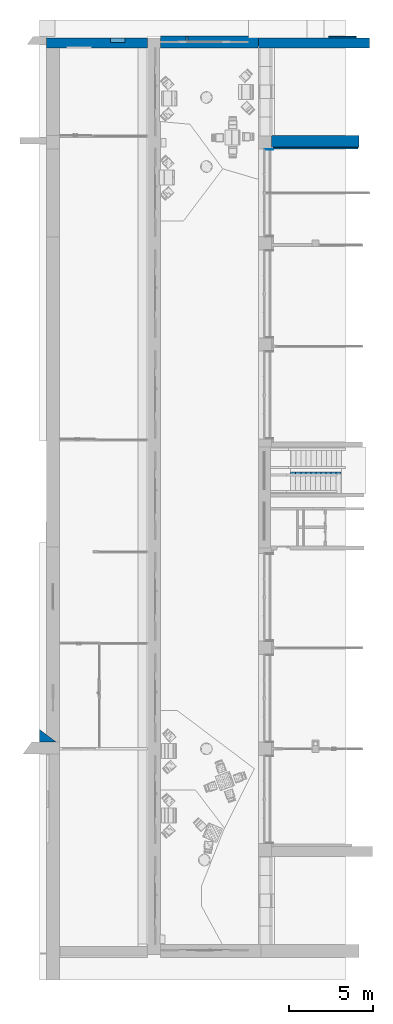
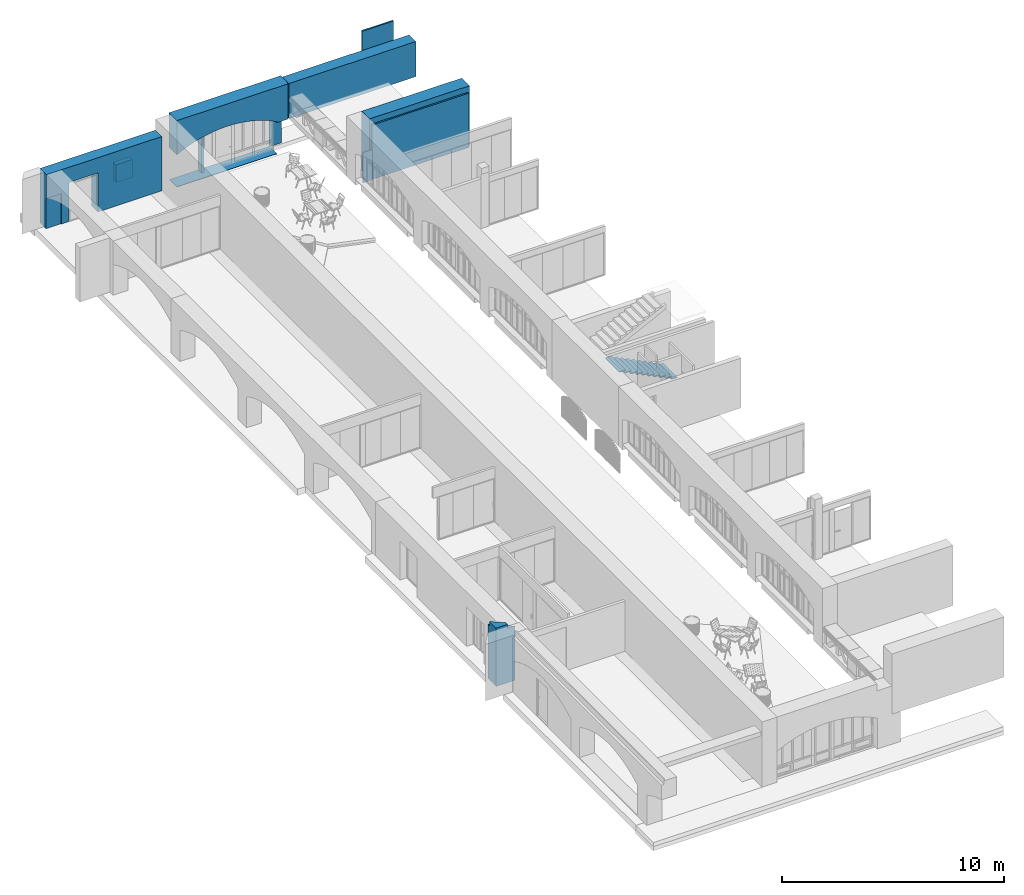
# One storey, part 75 of 88: 10 walls, 1 stair flight, 14 openings, 1 element without a shape of its own.
"""IFC2X3 building model written with IfcOpenShell, lengths in millimetres."""

import ifcopenshell
import ifcopenshell.guid

model = None  # the IFC model being written
_history = None  # IfcOwnerHistory: only IFC2X3 demands one
_inside = {}  # id of a spatial element -> (the spatial element, [elements in it])
_under = {}  # id of a project, library or spatial element -> (it, [spatial elements below it])
_declared = {}  # id of a project -> (the project, [libraries it declares])
_typed = {}  # id of a type object -> (the type object, [elements of that type])
_made_of = {}  # id of a material, layer set ... -> (it, [elements and type objects made of it])


def new_model(schema):
    """Start an empty IFC model of exactly this schema.

    Asked for "IFC4X3", IfcOpenShell would pick the latest addendum, in which some entities
    have other attributes; the version numbers below select the first issue.
    IFC2X3 requires an IfcOwnerHistory on every rooted entity: one is made here for all.
    """
    global model, _history
    if schema == "IFC4X3":
        model = ifcopenshell.file(schema_version=(4, 3, 0, 0))
    else:
        model = ifcopenshell.file(schema=schema)
    _inside.clear()
    _under.clear()
    _declared.clear()
    _typed.clear()
    _made_of.clear()
    _history = None
    if model.schema == "IFC2X3":
        org = make("IfcOrganization", Name="unknown")
        user = make(
            "IfcPersonAndOrganization",
            ThePerson=make("IfcPerson", FamilyName="unknown"),
            TheOrganization=org,
        )
        app = make(
            "IfcApplication",
            ApplicationDeveloper=org,
            Version="unknown",
            ApplicationFullName="unknown",
            ApplicationIdentifier="unknown",
        )
        _history = make(
            "IfcOwnerHistory",
            OwningUser=user,
            OwningApplication=app,
            ChangeAction="ADDED",
            CreationDate=0,
        )
    return model


def make(cls, **values):
    """One entity of the class cls with the attributes given. An attribute that is None is left unset."""
    return model.create_entity(
        cls, **{name: value for name, value in values.items() if value is not None}
    )


def entity(cls, *values):
    """Any entity or typed value of the class cls, its attributes in the order of the schema. None: left unset."""
    e = model.create_entity(cls)
    for i, value in enumerate(values):
        if value is not None:
            e[i] = value
    return e


def rooted(cls, **values):
    """An entity with a GlobalId (a new one), such as an element, a storey or a relation."""
    return make(cls, GlobalId=ifcopenshell.guid.new(), OwnerHistory=_history, **values)


def si_unit(unit_type, name, prefix=None):
    """IfcSIUnit, for example si_unit("LENGTHUNIT", "METRE", prefix="MILLI")."""
    return make("IfcSIUnit", UnitType=unit_type, Prefix=prefix, Name=name)


def converted_unit(unit_type, name, factor, base, dimensions=None, offset=None):
    """IfcConversionBasedUnit, such as the inch: factor (a typed value) times the base unit."""
    return make(
        "IfcConversionBasedUnit"
        if offset is None
        else "IfcConversionBasedUnitWithOffset",
        ConversionOffset=offset,
        Dimensions=None
        if dimensions is None
        else entity("IfcDimensionalExponents", *dimensions),
        UnitType=unit_type,
        Name=name,
        ConversionFactor=make(
            "IfcMeasureWithUnit", ValueComponent=factor, UnitComponent=base
        ),
    )


def derived_unit(unit_type, elements):
    """IfcDerivedUnit: a product of units, each with its exponent."""
    return make(
        "IfcDerivedUnit",
        Elements=[
            make("IfcDerivedUnitElement", Unit=unit, Exponent=power)
            for unit, power in elements
        ],
        UnitType=unit_type,
    )


def assignment(units):
    """IfcUnitAssignment: the units of a project."""
    return None if units is None else make("IfcUnitAssignment", Units=units)


def point(xyz):
    """IfcCartesianPoint."""
    return None if xyz is None else make("IfcCartesianPoint", Coordinates=xyz)


def direction(xyz):
    """IfcDirection."""
    return None if xyz is None else make("IfcDirection", DirectionRatios=xyz)


def frame(location, z_axis=None, x_axis=None):
    """IfcAxis2Placement3D, a coordinate frame: its origin and axes. An axis left out is left unset."""
    return make(
        "IfcAxis2Placement3D",
        Location=point(location),
        Axis=direction(z_axis),
        RefDirection=direction(x_axis),
    )


def frame_2d(location, x_axis=None):
    """IfcAxis2Placement2D, a coordinate frame in the plane: its origin and x axis."""
    return make(
        "IfcAxis2Placement2D", Location=point(location), RefDirection=direction(x_axis)
    )


def origin():
    """The frame at (0, 0, 0) with its axes left unset."""
    return frame((0.0, 0.0, 0.0))


def origin_2d_with_axis():
    """The frame at (0, 0) in the plane with the x axis (1, 0) written out."""
    return frame_2d((0.0, 0.0), x_axis=(1.0, 0.0))


def place(relative_to, where):
    """IfcLocalPlacement: puts the frame where relative to a parent placement (None: the world)."""
    return make(
        "IfcLocalPlacement", PlacementRelTo=relative_to, RelativePlacement=where
    )


def context(
    kind, dimensions, precision=None, world=None, true_north=None, identifier=None
):
    """IfcGeometricRepresentationContext, for example the 3D "Model" context."""
    return make(
        "IfcGeometricRepresentationContext",
        ContextIdentifier=identifier,
        ContextType=kind,
        CoordinateSpaceDimension=dimensions,
        Precision=precision,
        WorldCoordinateSystem=world,
        TrueNorth=true_north,
    )


def subcontext(parent, identifier, kind, view, scale=None):
    """IfcGeometricRepresentationSubContext, for example "Body" below "Model"."""
    return make(
        "IfcGeometricRepresentationSubContext",
        ContextIdentifier=identifier,
        ContextType=kind,
        ParentContext=parent,
        TargetScale=scale,
        TargetView=view,
    )


def project(units=None, contexts=None):
    """IfcProject with its units and contexts."""
    return rooted(
        "IfcProject",
        Name="project",
        RepresentationContexts=contexts,
        UnitsInContext=assignment(units),
    )


def spatial(cls, under=None, at=None, **own):
    """A site, building, storey or space (cls), placed at a placement, below another one or the project."""
    s = rooted(cls, ObjectPlacement=at, **own)
    if under is not None:
        _under.setdefault(under.id(), (under, []))[1].append(s)
    return s


def polyline(points):
    """IfcPolyline through the points."""
    return make("IfcPolyline", Points=[point(p) for p in points])


def circle_curve(where, radius):
    """IfcCircle in the frame where."""
    return make("IfcCircle", Position=where, Radius=radius)


def parameter(value):
    """IfcParameterValue: where a trimmed curve begins or ends, as a parameter of its basis curve."""
    return model.create_entity("IfcParameterValue", value)


def trimmed(basis, trim1, trim2, sense, master):
    """IfcTrimmedCurve: the piece of a basis curve between two trims."""
    return make(
        "IfcTrimmedCurve",
        BasisCurve=basis,
        Trim1=trim1,
        Trim2=trim2,
        SenseAgreement=sense,
        MasterRepresentation=master,
    )


def segment(curve, same_sense, transition):
    """IfcCompositeCurveSegment."""
    return make(
        "IfcCompositeCurveSegment",
        Transition=transition,
        SameSense=same_sense,
        ParentCurve=curve,
    )


def composite_curve(segments, self_intersect=None):
    """IfcCompositeCurve: segments joined end to end."""
    return make("IfcCompositeCurve", Segments=segments, SelfIntersect=self_intersect)


def profile(cls, at=None, kind="AREA", **sizes):
    """A parametric profile (cls). Its sizes go by their IFC names, for example OverallWidth=200.0."""
    return make(cls, ProfileType=kind, Position=at, **sizes)


def rectangle(**sizes):
    """IfcRectangleProfileDef."""
    return profile("IfcRectangleProfileDef", **sizes)


def outline(outer, holes=None, kind="AREA"):
    """IfcArbitraryClosedProfileDef: a profile drawn as a closed curve; with holes, ...WithVoids."""
    if holes is None:
        return make("IfcArbitraryClosedProfileDef", ProfileType=kind, OuterCurve=outer)
    return make(
        "IfcArbitraryProfileDefWithVoids",
        ProfileType=kind,
        OuterCurve=outer,
        InnerCurves=holes,
    )


def extrude(swept, where, along, depth):
    """IfcExtrudedAreaSolid: the profile swept, set in the frame where, extruded along a direction by depth."""
    return make(
        "IfcExtrudedAreaSolid",
        SweptArea=swept,
        Position=where,
        ExtrudedDirection=direction(along),
        Depth=depth,
    )


def clip(a, b, op="DIFFERENCE"):
    """IfcBooleanClippingResult: the solid a cut by the half space b."""
    return make(
        "IfcBooleanClippingResult", Operator=op, FirstOperand=a, SecondOperand=b
    )


def bounded_halfspace(plane, agree, where, boundary):
    """IfcPolygonalBoundedHalfSpace: a half space limited to a polygon's prism."""
    return make(
        "IfcPolygonalBoundedHalfSpace",
        BaseSurface=make("IfcPlane", Position=plane),
        AgreementFlag=agree,
        Position=where,
        PolygonalBoundary=boundary,
    )


def faces_of(points, faces, orient=None, outer=None):
    """IfcFace entities. A face is a list of loops; a loop is a list of indices into points, from 0.

    orient and outer hold one flag for each loop. By default every Orientation is true, the
    first loop of a face is its IfcFaceOuterBound and the others are IfcFaceBound.
    """
    made = []
    for i, loops in enumerate(faces):
        bounds = []
        for j, loop in enumerate(loops):
            is_outer = j == 0 if outer is None else outer[i][j]
            bounds.append(
                make(
                    "IfcFaceOuterBound" if is_outer else "IfcFaceBound",
                    Bound=make("IfcPolyLoop", Polygon=[points[k] for k in loop]),
                    Orientation=True if orient is None else orient[i][j],
                )
            )
        made.append(make("IfcFace", Bounds=bounds))
    return made


def faceted_brep(points, faces, orient=None, outer=None, voids=None):
    """IfcFacetedBrep: a solid bounded by flat faces; with voids (closed shells), ...WithVoids."""
    shared = [point(p) for p in points]
    hull = make("IfcClosedShell", CfsFaces=faces_of(shared, faces, orient, outer))
    if voids is None:
        return make("IfcFacetedBrep", Outer=hull)
    return make(
        "IfcFacetedBrepWithVoids",
        Outer=hull,
        Voids=[
            make(cls, CfsFaces=faces_of(shared, fs, o, b)) for cls, fs, o, b in voids
        ],
    )


def shape(context_of_items, identifier, shape_type, items):
    """IfcShapeRepresentation: the items that make up one representation, for example the "Body"."""
    return make(
        "IfcShapeRepresentation",
        ContextOfItems=context_of_items,
        RepresentationIdentifier=identifier,
        RepresentationType=shape_type,
        Items=items,
    )


def material(Name=None, Category=None):
    """IfcMaterial."""
    return make("IfcMaterial", Name=Name, Category=Category)


def layer(
    of_material, thickness, ventilated=None, Name=None, Category=None, Priority=None
):
    """IfcMaterialLayer: one layer of a wall or slab, of a material (None: an air gap)."""
    return make(
        "IfcMaterialLayer",
        Material=of_material,
        LayerThickness=thickness,
        IsVentilated=ventilated,
        Name=Name,
        Category=Category,
        Priority=Priority,
    )


def layer_set(layers, Name=None):
    """IfcMaterialLayerSet."""
    return make("IfcMaterialLayerSet", MaterialLayers=layers, LayerSetName=Name)


def layer_usage(for_layer_set, set_direction, sense, offset, extent=None):
    """IfcMaterialLayerSetUsage: how a layer set lies in its element."""
    return make(
        "IfcMaterialLayerSetUsage",
        ForLayerSet=for_layer_set,
        LayerSetDirection=set_direction,
        DirectionSense=sense,
        OffsetFromReferenceLine=offset,
        ReferenceExtent=extent,
    )


def made_of(thing, what):
    """Note that an element or type object is made of a material, layer set ...; save() writes the relation."""
    if what is not None:
        _made_of.setdefault(what.id(), (what, []))[1].append(thing)
    return thing


def type_object(cls, material=None, **own):
    """A type object (cls), such as IfcWallType, which elements share."""
    return made_of(rooted(cls, **own), material)


def element(
    cls,
    number,
    at=None,
    inside=None,
    cuts=None,
    type_object=None,
    material=None,
    context=None,
    identifier="Body",
    shape_type=None,
    held_by="IfcProductDefinitionShape",
    body=None,
    shapes=None,
    **own,
):
    """One element of the class cls, such as IfcWall. Its Tag is "e" and its number.

    at: its placement. inside: the storey or other place that contains it. cuts: it is an
    opening in that element (IfcRelVoidsElement). A single representation is given by context,
    identifier, shape_type and body (its items); several are given by shapes. held_by: the class
    of the entity that holds the representations. save() writes the other relations.
    """
    e = rooted(cls, Tag="e%d" % number, ObjectPlacement=at, **own)
    if body is not None:
        shapes = [shape(context, identifier, shape_type, body)]
    if shapes is not None:
        e.Representation = make(held_by, Representations=shapes)
    if inside is not None:
        _inside.setdefault(inside.id(), (inside, []))[1].append(e)
    if cuts is not None:
        rooted(
            "IfcRelVoidsElement", RelatingBuildingElement=cuts, RelatedOpeningElement=e
        )
    if type_object is not None:
        _typed.setdefault(type_object.id(), (type_object, []))[1].append(e)
    return made_of(e, material)


def aggregate(whole, parts):
    """IfcRelAggregates: a whole, such as a stair, and the parts it consists of."""
    return rooted("IfcRelAggregates", RelatingObject=whole, RelatedObjects=parts)


def save(model, path):
    """Write the relations noted so far, then the file.

    IfcRelAggregates (storeys below a building ...), IfcRelContainedInSpatialStructure (elements
    in a storey), IfcRelDefinesByType, IfcRelAssociatesMaterial and IfcRelDeclares: one each for
    every whole, place, type object, material and project.
    """
    for whole, parts in _under.values():
        aggregate(whole, parts)
    for where, things in _inside.values():
        rooted(
            "IfcRelContainedInSpatialStructure",
            RelatedElements=things,
            RelatingStructure=where,
        )
    for kind, things in _typed.values():
        rooted("IfcRelDefinesByType", RelatedObjects=things, RelatingType=kind)
    for what, things in _made_of.values():
        rooted("IfcRelAssociatesMaterial", RelatedObjects=things, RelatingMaterial=what)
    for by, libraries in _declared.values():
        rooted("IfcRelDeclares", RelatingContext=by, RelatedDefinitions=libraries)
    model.write(path)


model = new_model("IFC2X3")

# Units and contexts
model_context = context("Model", 3, precision=0.01, world=origin(), true_north=direction((6.123031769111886e-17, 1.0)))
body_context = subcontext(model_context, "Body", "Model", "MODEL_VIEW")
ifc_project = project(units=[si_unit("LENGTHUNIT", "METRE", prefix="MILLI"), si_unit("AREAUNIT", "SQUARE_METRE"), si_unit("VOLUMEUNIT", "CUBIC_METRE"), converted_unit("PLANEANGLEUNIT", "DEGREE", entity("IfcPlaneAngleMeasure", 0.017453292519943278), si_unit("PLANEANGLEUNIT", "RADIAN"), dimensions=[0, 0, 0, 0, 0, 0, 0]), si_unit("MASSUNIT", "GRAM", prefix="KILO"), derived_unit("MASSDENSITYUNIT", [(si_unit("MASSUNIT", "GRAM", prefix="KILO"), 1), (si_unit("LENGTHUNIT", "METRE"), -3)]), derived_unit("IONCONCENTRATIONUNIT", [(si_unit("MASSUNIT", "GRAM", prefix="KILO"), 1), (si_unit("LENGTHUNIT", "METRE"), -3)]), derived_unit("MOMENTOFINERTIAUNIT", [(si_unit("LENGTHUNIT", "METRE"), 4)]), si_unit("TIMEUNIT", "SECOND"), si_unit("FREQUENCYUNIT", "HERTZ"), si_unit("THERMODYNAMICTEMPERATUREUNIT", "DEGREE_CELSIUS"), derived_unit("THERMALTRANSMITTANCEUNIT", [(si_unit("MASSUNIT", "GRAM", prefix="KILO"), 1), (si_unit("THERMODYNAMICTEMPERATUREUNIT", "KELVIN"), -1), (si_unit("TIMEUNIT", "SECOND"), -3)]), derived_unit("THERMALCONDUCTANCEUNIT", [(si_unit("MASSUNIT", "GRAM", prefix="KILO"), 1), (si_unit("THERMODYNAMICTEMPERATUREUNIT", "KELVIN"), -1), (si_unit("TIMEUNIT", "SECOND"), -3), (si_unit("LENGTHUNIT", "METRE"), 1)]), derived_unit("VOLUMETRICFLOWRATEUNIT", [(si_unit("LENGTHUNIT", "METRE", prefix="DECI"), 3), (si_unit("TIMEUNIT", "SECOND"), -1)]), derived_unit("MASSFLOWRATEUNIT", [(si_unit("MASSUNIT", "GRAM", prefix="KILO"), 1), (si_unit("TIMEUNIT", "SECOND"), -1)]), derived_unit("ROTATIONALFREQUENCYUNIT", [(si_unit("TIMEUNIT", "SECOND"), -1)]), si_unit("ELECTRICCURRENTUNIT", "AMPERE"), si_unit("ELECTRICVOLTAGEUNIT", "VOLT"), si_unit("POWERUNIT", "WATT"), si_unit("FORCEUNIT", "NEWTON", prefix="KILO"), si_unit("ILLUMINANCEUNIT", "LUX"), si_unit("LUMINOUSFLUXUNIT", "LUMEN"), si_unit("LUMINOUSINTENSITYUNIT", "CANDELA"), si_unit("ENERGYUNIT", "JOULE"), derived_unit("USERDEFINED", [(si_unit("MASSUNIT", "GRAM", prefix="KILO"), -1), (si_unit("LENGTHUNIT", "METRE"), -2), (si_unit("TIMEUNIT", "SECOND"), 3), (si_unit("LUMINOUSFLUXUNIT", "LUMEN"), 1)]), derived_unit("USERDEFINED", [(si_unit("MASSUNIT", "GRAM", prefix="KILO"), 1), (si_unit("TIMEUNIT", "SECOND"), -3), (si_unit("LENGTHUNIT", "METRE"), 3), (si_unit("ELECTRICCURRENTUNIT", "AMPERE"), -2)]), derived_unit("SOUNDPOWERUNIT", [(si_unit("MASSUNIT", "GRAM", prefix="KILO"), 1), (si_unit("TIMEUNIT", "SECOND"), -3), (si_unit("LENGTHUNIT", "METRE"), 2)]), derived_unit("SOUNDPRESSUREUNIT", [(si_unit("MASSUNIT", "GRAM", prefix="KILO"), 1), (si_unit("LENGTHUNIT", "METRE"), -1), (si_unit("TIMEUNIT", "SECOND"), -2)]), derived_unit("LINEARVELOCITYUNIT", [(si_unit("LENGTHUNIT", "METRE"), 1), (si_unit("TIMEUNIT", "SECOND"), -1)]), si_unit("PRESSUREUNIT", "PASCAL"), derived_unit("USERDEFINED", [(si_unit("MASSUNIT", "GRAM", prefix="KILO"), 1), (si_unit("LENGTHUNIT", "METRE"), -2), (si_unit("TIMEUNIT", "SECOND"), -2)]), derived_unit("LINEARFORCEUNIT", [(si_unit("MASSUNIT", "GRAM", prefix="KILO"), 1), (si_unit("TIMEUNIT", "SECOND"), -2)]), derived_unit("PLANARFORCEUNIT", [(si_unit("MASSUNIT", "GRAM", prefix="KILO"), 1), (si_unit("LENGTHUNIT", "METRE"), -1), (si_unit("TIMEUNIT", "SECOND"), -2)]), derived_unit("SPECIFICHEATCAPACITYUNIT", [(si_unit("THERMODYNAMICTEMPERATUREUNIT", "KELVIN"), -1), (si_unit("LENGTHUNIT", "METRE"), 2), (si_unit("TIMEUNIT", "SECOND"), -2)]), derived_unit("HEATFLUXDENSITYUNIT", [(si_unit("MASSUNIT", "GRAM", prefix="KILO"), 1), (si_unit("TIMEUNIT", "SECOND"), -3)]), derived_unit("HEATINGVALUEUNIT", [(si_unit("LENGTHUNIT", "METRE"), 2), (si_unit("TIMEUNIT", "SECOND"), -2)]), derived_unit("VAPORPERMEABILITYUNIT", [(si_unit("LENGTHUNIT", "METRE"), -1), (si_unit("TIMEUNIT", "SECOND"), 1)]), derived_unit("DYNAMICVISCOSITYUNIT", [(si_unit("MASSUNIT", "GRAM", prefix="KILO"), 1), (si_unit("TIMEUNIT", "SECOND"), -1), (si_unit("LENGTHUNIT", "METRE"), -1)]), derived_unit("THERMALEXPANSIONCOEFFICIENTUNIT", [(si_unit("THERMODYNAMICTEMPERATUREUNIT", "KELVIN"), -1)]), derived_unit("MODULUSOFELASTICITYUNIT", [(si_unit("MASSUNIT", "GRAM", prefix="KILO"), 1), (si_unit("LENGTHUNIT", "METRE"), -1), (si_unit("TIMEUNIT", "SECOND"), -2)]), derived_unit("ISOTHERMALMOISTURECAPACITYUNIT", [(si_unit("MASSUNIT", "GRAM", prefix="KILO"), -1), (si_unit("LENGTHUNIT", "METRE"), 3)]), derived_unit("MOISTUREDIFFUSIVITYUNIT", [(si_unit("TIMEUNIT", "SECOND"), -1), (si_unit("LENGTHUNIT", "METRE"), 2)]), derived_unit("MASSPERLENGTHUNIT", [(si_unit("MASSUNIT", "GRAM", prefix="KILO"), 1), (si_unit("LENGTHUNIT", "METRE"), -1)]), derived_unit("THERMALRESISTANCEUNIT", [(si_unit("MASSUNIT", "GRAM", prefix="KILO"), -1), (si_unit("TIMEUNIT", "SECOND"), 3), (si_unit("THERMODYNAMICTEMPERATUREUNIT", "KELVIN"), 1)]), derived_unit("ACCELERATIONUNIT", [(si_unit("LENGTHUNIT", "METRE"), 1), (si_unit("TIMEUNIT", "SECOND"), -2)]), derived_unit("ANGULARVELOCITYUNIT", [(si_unit("TIMEUNIT", "SECOND"), -1), (si_unit("PLANEANGLEUNIT", "RADIAN"), 1)]), derived_unit("LINEARSTIFFNESSUNIT", [(si_unit("MASSUNIT", "GRAM", prefix="KILO"), 1), (si_unit("TIMEUNIT", "SECOND"), -2)]), derived_unit("WARPINGCONSTANTUNIT", [(si_unit("LENGTHUNIT", "METRE"), 6)]), derived_unit("LINEARMOMENTUNIT", [(si_unit("MASSUNIT", "GRAM", prefix="KILO"), 1), (si_unit("LENGTHUNIT", "METRE"), 1), (si_unit("TIMEUNIT", "SECOND"), -2)]), derived_unit("TORQUEUNIT", [(si_unit("MASSUNIT", "GRAM", prefix="KILO"), 1), (si_unit("LENGTHUNIT", "METRE"), 2), (si_unit("TIMEUNIT", "SECOND"), -2)])], contexts=[model_context])

# Site, building, storey
site_placement = place(None, origin())
site = spatial("IfcSite", under=ifc_project, at=site_placement, Name="Default", CompositionType="ELEMENT")
building_placement = place(site_placement, origin())
building = spatial("IfcBuilding", under=site, at=building_placement, Name="Eesti Rahvusraamatukogu hoone renoveerimise projekteerimistööd", CompositionType="ELEMENT")
storey_placement = place(building_placement, origin())
storey = spatial("IfcBuildingStorey", under=building, at=storey_placement, Name="1. korrus", CompositionType="ELEMENT", Elevation=0.0)

# Walls
ifc_material_1 = material(Name="ol. olev materjal")
ifc_layer_1 = layer(ifc_material_1, 700.0)
ifc_layer_set_1 = layer_set([ifc_layer_1], Name="Basic Wall:ol. olev - 700mm")
wall_type_1 = type_object("IfcWallType", Name="Basic Wall:ol. olev - 700mm", PredefinedType="STANDARD", material=ifc_layer_set_1)
wall_1_placement = place(storey_placement, frame((-49013.045950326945, 12535.477571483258, 0.0), z_axis=(0.0, 0.0, 1.0), x_axis=(-0.7986355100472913, 0.6018150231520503, 0.0)))
element("IfcWall", 1, at=wall_1_placement, inside=storey, type_object=wall_type_1, Name="Basic Wall:ol. olev - 700mm", ObjectType="Basic Wall:ol. olev - 700mm", context=body_context, shape_type="Brep", body=[
    faceted_brep([(1226.113009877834, -350.0, 2980.0), (698.1774548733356, -350.0, 2980.0), (0.0, -350.0, 2980.0), (0.0, -350.0, 0.0), (698.1774548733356, -350.0, 0.0), (1226.113009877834, -350.0, 0.0), (782.0377789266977, 239.3077356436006, 0.0), (782.0377789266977, 239.3077356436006, 3200.0), (307.82985094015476, -118.03356908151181, 3200.0), (407.0052333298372, -250.0, 3200.0), (1150.7576048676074, -250.0, 3200.0), (307.82985094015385, -118.03356908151, 2980.0), (782.0377789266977, 239.3077356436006, 3100.0), (1150.75760486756, -250.0, 2980.0), (407.00523332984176, -250.0, 2980.0)], [[[0, 1, 2, 3, 4, 5]], [[5, 4, 3, 6]], [[7, 8, 9, 10]], [[6, 3, 2, 11, 8, 7, 12]], [[13, 14, 11, 2, 1, 0]], [[9, 14, 13, 10]], [[14, 9, 8, 11]], [[0, 5, 6, 12, 7, 10, 13]]]),
])
ifc_layer_usage_1 = layer_usage(ifc_layer_set_1, "AXIS2", "NEGATIVE", 350.0)
wall_2_placement = place(storey_placement, frame((-36000.0, 48430.0, 1650.0)))
element("IfcWallStandardCase", 2, at=wall_2_placement, inside=storey, type_object=wall_type_1, material=ifc_layer_usage_1, Name="Basic Wall:ol. olev - 700mm", ObjectType="Basic Wall:ol. olev - 700mm", context=body_context, shape_type="SweptSolid", body=[
    extrude(rectangle(XDim=5200.0, YDim=699.9999999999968, at=frame_2d((2600.0, -1.0231815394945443e-12), x_axis=(-1.0, 0.0))), origin(), (0.0, 0.0, 1.0), 3300.0000000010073),
])

# Wall, openings
ifc_layer_2 = layer(ifc_material_1, 600.0)
ifc_layer_set_2 = layer_set([ifc_layer_2], Name="Basic Wall:ol. olev - 600mm")
ifc_layer_usage_2 = layer_usage(ifc_layer_set_2, "AXIS2", "NEGATIVE", 300.0)
wall_type_2 = type_object("IfcWallType", Name="Basic Wall:ol. olev - 600mm", PredefinedType="STANDARD", material=ifc_layer_set_2)
wall_3_placement = place(storey_placement, frame((-36780.0, 54290.37627987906, 1650.0)))
wall_3 = element("IfcWallStandardCase", 3, at=wall_3_placement, inside=storey, type_object=wall_type_2, material=ifc_layer_usage_2, Name="Basic Wall:ol. olev - 600mm", ObjectType="Basic Wall:ol. olev - 600mm", context=body_context, shape_type="SweptSolid", body=[
    extrude(rectangle(XDim=6599.999999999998, YDim=600.0000000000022, at=frame_2d((3299.999999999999, -1.6768808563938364e-12), x_axis=(-1.0, 0.0))), origin(), (0.0, 0.0, 1.0), 1930.000000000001),
])
opening_1_placement = place(wall_3_placement, frame((36780.0, -54290.37627987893, -1730.0)))
element("IfcOpeningElement", 4, at=opening_1_placement, cuts=wall_3, Name="Basic Wall:ol. olev - 600mm", ObjectType="Opening", context=body_context, shape_type="SweptSolid", body=[
    extrude(rectangle(XDim=2970.0000000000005, YDim=400.0, at=frame_2d((-2.1742607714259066e-12, 0.0), x_axis=(0.0, 1.0))), frame((-34240.0, 54590.376279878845, 1485.0), z_axis=(0.0, 1.0, 0.0), x_axis=(1.0, 0.0, 0.0)), (0.0, 0.0, 1.0), 1299.999999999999),
])
opening_2_placement = place(wall_3_placement, frame((36780.0, -54290.37627987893, -1730.0)))
element("IfcOpeningElement", 5, at=opening_2_placement, cuts=wall_3, Name="Basic Wall:ol. olev - 600mm", ObjectType="Opening", context=body_context, shape_type="SweptSolid", body=[
    extrude(rectangle(XDim=1950.0000000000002, YDim=400.0, at=frame_2d((2.1742607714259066e-12, 0.0), x_axis=(0.0, 1.0))), frame((-35590.0, 54590.376279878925, 975.0), z_axis=(0.0, 1.0, 0.0), x_axis=(1.0, 0.0, 0.0)), (0.0, 0.0, 1.0), 1130.000000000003),
])

ifc_layer_3 = layer(ifc_material_1, 720.0)
ifc_layer_set_3 = layer_set([ifc_layer_3], Name="Basic Wall:ol. olev - 720mm")
ifc_layer_usage_3 = layer_usage(ifc_layer_set_3, "AXIS2", "POSITIVE", -360.0)
wall_type_3 = type_object("IfcWallType", Name="Basic Wall:ol. olev - 720mm", PredefinedType="STANDARD", material=ifc_layer_set_3)
wall_4_placement = place(storey_placement, frame((-42590.0, 54350.376279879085, -80.0)))
wall_4 = element("IfcWallStandardCase", 6, at=wall_4_placement, inside=storey, type_object=wall_type_3, material=ifc_layer_usage_3, Name="Basic Wall:ol. olev - 720mm", ObjectType="Basic Wall:ol. olev - 720mm", context=body_context, shape_type="Clipping", body=[
    clip(clip(clip(clip(extrude(rectangle(XDim=5809.999999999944, YDim=719.9999999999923, at=frame_2d((2904.999999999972, 9.663381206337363e-13), x_axis=(-1.0, 0.0))), origin(), (0.0, 0.0, 1.0), 3660.0000000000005), bounded_halfspace(frame((5200.0, 360.0, 80.0), z_axis=(0.0, 0.0, 1.0), x_axis=(0.0, 1.0, 0.0)), True, frame((5200.0, 360.0, 80.0), z_axis=(0.0, 0.0, 1.0), x_axis=(0.0, 1.0, 0.0)), polyline([(0.0, 0.0), (-50.0, 0.0), (-50.0, -20.0), (0.0, -20.0), (0.0, 0.0)]))), bounded_halfspace(frame((5220.0, 360.0, 80.0), z_axis=(1.0, 0.0, 0.0), x_axis=(0.0, 0.0, 1.0)), True, frame((5220.0, 360.0, 80.0), z_axis=(1.0, 0.0, 0.0), x_axis=(0.0, 0.0, 1.0)), polyline([(0.0, 0.0), (0.0, 50.0), (-80.0, 50.0), (-80.0, 0.0), (0.0, 0.0)]))), bounded_halfspace(frame((5220.0, 310.0, 0.0), z_axis=(0.0, 1.0, 0.0), x_axis=(-1.0, 0.0, 0.0)), True, frame((5220.0, 310.0, 0.0), z_axis=(0.0, 1.0, 0.0), x_axis=(-1.0, 0.0, 0.0)), polyline([(0.0, 0.0), (0.0, 80.0), (20.0, 80.0), (20.0, 1730.0), (-590.0, 1730.0), (-590.0, 0.0), (0.0, 0.0)]))), bounded_halfspace(frame((5200.0, 310.0, 1730.0), z_axis=(0.0, 0.0, 1.0), x_axis=(0.0, -1.0, 0.0)), True, frame((5200.0, 310.0, 1730.0), z_axis=(0.0, 0.0, 1.0), x_axis=(0.0, -1.0, 0.0)), polyline([(0.0, 0.0), (670.0, 0.0), (670.0, 579.8265770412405), (670.0, 580.0), (570.0, 580.0), (570.0, 609.8265770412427), (570.0, 610.0), (70.0, 610.0), (0.0, 610.0), (0.0, 0.0)]))),
])
opening_3_placement = place(storey_placement, frame((-42590.0, 54350.376279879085, -80.0)))
element("IfcOpeningElement", 7, at=opening_3_placement, cuts=wall_4, Name="Basic Wall:ol. olev - 720mm:1", ObjectType="Opening", context=body_context, shape_type="SweptSolid", body=[
    extrude(outline(composite_curve([segment(polyline([(-72.49999999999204, -10.302993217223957), (72.50000000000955, -10.302993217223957)]), True, "CONTINUOUS"), segment(polyline([(72.50000000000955, -10.302993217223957), (72.50000000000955, -3.459725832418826)]), True, "CONTINUOUS"), segment(trimmed(circle_curve(frame_2d((1030.0, 5436.193017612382), x_axis=(1.0, 0.0)), 5523.28056677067), [parameter(258.48586770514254)], [parameter(260.01693332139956)], True, "PARAMETER"), False, "CONTINUOUS"), segment(polyline([(-72.49999999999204, 24.065712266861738), (-72.49999999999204, -10.302993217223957)]), True, "CONTINUOUS")], self_intersect=False)), frame((1570.0, 24.62372012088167, 2342.912450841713), z_axis=(0.0, 1.0, 0.0), x_axis=(1.0, 0.0, 0.0)), (0.0, 0.0, 1.0), 299.99999999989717),
])
opening_4_placement = place(wall_4_placement, frame((-1.5952722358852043, -512.400000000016, 30.0)))
element("IfcOpeningElement", 8, at=opening_4_placement, cuts=wall_4, Name="Basic Wall:ol. olev - 720mm", ObjectType="Opening", context=body_context, shape_type="SweptSolid", body=[
    extrude(outline(composite_curve([segment(polyline([(-2600.0, -874.8853279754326), (2600.0, -874.8853279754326)]), True, "CONTINUOUS"), segment(polyline([(2600.0, -874.8853279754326), (2600.0, 874.8853279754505)]), True, "CONTINUOUS"), segment(trimmed(circle_curve(frame_2d((0.0, -3998.165894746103), x_axis=(-1.0, 0.0)), 5523.28056677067), [parameter(241.9179998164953)], [parameter(298.08200018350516)], True, "PARAMETER"), True, "CONTINUOUS"), segment(polyline([(-2600.0, 874.8853279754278), (-2600.0, -874.8853279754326)]), True, "CONTINUOUS")], self_intersect=False)), frame((2601.5952722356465, 0.0, 874.8853279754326), z_axis=(0.0, 1.0, 0.0), x_axis=(-1.0, 0.0, 0.0)), (0.0, 0.0, 1.0), 1024.8000000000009),
])
opening_5_placement = place(wall_4_placement, frame((42590.0, -54350.37627987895, 0.0)))
element("IfcOpeningElement", 9, at=opening_5_placement, cuts=wall_4, Name="Basic Wall:ol. olev - 720mm", ObjectType="Opening", context=body_context, shape_type="SweptSolid", body=[
    extrude(rectangle(XDim=2970.0000000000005, YDim=400.0, at=frame_2d((-2.1742607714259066e-12, 0.0), x_axis=(0.0, 1.0))), frame((-34240.0, 54590.37627987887, 1485.0), z_axis=(0.0, 1.0, 0.0), x_axis=(1.0, 0.0, 0.0)), (0.0, 0.0, 1.0), 1299.999999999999),
])
opening_6_placement = place(wall_4_placement, frame((42590.0, -54350.37627987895, 0.0)))
element("IfcOpeningElement", 10, at=opening_6_placement, cuts=wall_4, Name="Basic Wall:ol. olev - 720mm", ObjectType="Opening", context=body_context, shape_type="SweptSolid", body=[
    extrude(rectangle(XDim=1950.0000000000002, YDim=400.0, at=frame_2d((2.1742607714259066e-12, 0.0), x_axis=(0.0, 1.0))), frame((-35590.0, 54590.376279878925, 975.0), z_axis=(0.0, 1.0, 0.0), x_axis=(1.0, 0.0, 0.0)), (0.0, 0.0, 1.0), 1130.000000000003),
])
opening_7_placement = place(wall_4_placement, frame((5780.0, -360.0, 1730.0)))
element("IfcOpeningElement", 11, at=opening_7_placement, cuts=wall_4, Name="Basic Wall:ol. olev - 720mm", ObjectType="Recess", context=body_context, shape_type="SweptSolid", body=[
    extrude(rectangle(XDim=1929.9999999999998, YDim=30.000000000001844, at=origin_2d_with_axis()), frame((15.0, 0.0, 965.0), z_axis=(0.0, 1.0, 0.0), x_axis=(0.0, 0.0, -1.0)), (0.0, 0.0, 1.0), 100.00000000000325),
])

ifc_layer_4 = layer(ifc_material_1, 580.0)
ifc_layer_set_4 = layer_set([ifc_layer_4], Name="Basic Wall:ol. olev - 580mm")
ifc_layer_usage_4 = layer_usage(ifc_layer_set_4, "AXIS2", "POSITIVE", -290.0)
wall_type_4 = type_object("IfcWallType", Name="Basic Wall:ol. olev - 580mm", PredefinedType="STANDARD", material=ifc_layer_set_4)
wall_5_placement = place(storey_placement, frame((-49360.0, 54280.37627987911, 0.0)))
wall_5 = element("IfcWallStandardCase", 12, at=wall_5_placement, inside=storey, type_object=wall_type_4, material=ifc_layer_usage_4, Name="Basic Wall:ol. olev - 580mm", ObjectType="Basic Wall:ol. olev - 580mm", context=body_context, shape_type="SweptSolid", body=[
    extrude(rectangle(XDim=5989.999999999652, YDim=580.0000000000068, at=frame_2d((2994.999999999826, 1.3073986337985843e-12), x_axis=(-1.0, 0.0))), origin(), (0.0, 0.0, 1.0), 2980.0000000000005),
])
opening_8_placement = place(wall_5_placement, frame((49360.0, -54280.37627987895, 0.0)))
element("IfcOpeningElement", 13, at=opening_8_placement, cuts=wall_5, Name="Basic Wall:ol. olev - 580mm", ObjectType="Recess", context=body_context, shape_type="Brep", body=[
    faceted_brep([(-48580.0, 54019.93457046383, 0.0), (-48580.0, 54019.934570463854, 1660.0), (-48580.0, 53577.077702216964, 1885.1089561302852), (-48580.0, 53115.60305225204, 2069.0583929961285), (-48580.0, 52756.23368608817, 2166.8178757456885), (-48580.0, 52396.8643199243, 2264.577358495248), (-48580.0, 51905.79853510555, 2339.748116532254), (-48580.0, 51409.93457046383, 2370.0), (-48580.0, 50914.070605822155, 2339.748116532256), (-48580.0, 50423.0048210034, 2264.5773584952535), (-48580.0, 50063.63545483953, 2166.8178757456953), (-48580.0, 49704.266088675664, 2069.0583929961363), (-48580.0, 49242.79143871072, 1885.108956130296), (-48580.0, 48799.93457046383, 1660.0), (-48580.0, 48799.93457046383, 0.0), (-49360.0, 48799.93457046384, 0.0), (-49360.0, 48799.93457046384, 1660.0), (-49360.0, 49242.79143871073, 1885.108956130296), (-49360.0, 49704.26608867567, 2069.0583929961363), (-49360.0, 50063.63545483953, 2166.817875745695), (-49360.0, 50423.00482100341, 2264.5773584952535), (-49360.0, 50914.07060582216, 2339.748116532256), (-49360.0, 51409.93457046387, 2370.0), (-49360.0, 51905.798535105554, 2339.748116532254), (-49360.0, 52396.86431992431, 2264.577358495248), (-49360.0, 52756.23368608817, 2166.817875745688), (-49360.0, 53115.603052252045, 2069.0583929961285), (-49360.0, 53577.07770221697, 1885.1089561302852), (-49360.0, 54019.93457046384, 1660.0), (-49360.0, 54019.93457046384, 0.0)], [[[0, 1, 2, 3, 4, 5, 6, 7, 8, 9, 10, 11, 12, 13, 14]], [[15, 16, 17, 18, 19, 20, 21, 22, 23, 24, 25, 26, 27, 28, 29]], [[1, 0, 29, 28]], [[2, 1, 28, 27]], [[3, 2, 27, 26]], [[5, 4, 3, 26, 25, 24]], [[6, 5, 24, 23]], [[7, 6, 23, 22]], [[8, 7, 22, 21]], [[9, 8, 21, 20]], [[11, 10, 9, 20, 19, 18]], [[12, 11, 18, 17]], [[13, 12, 17, 16]], [[14, 13, 16, 15]], [[0, 14, 15, 29]]]),
])
opening_9_placement = place(wall_5_placement, frame((49360.0, -54280.37627987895, 45.0)))
element("IfcOpeningElement", 14, at=opening_9_placement, cuts=wall_5, Name="Basic Wall:ol. olev - 580mm", ObjectType="Opening", context=body_context, shape_type="SweptSolid", body=[
    extrude(rectangle(XDim=2100.0, YDim=1499.9999999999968, at=frame_2d((-4.320099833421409e-12, 0.0), x_axis=(0.0, 1.0))), frame((-47440.0, 52466.37627987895, 1050.0), z_axis=(0.0, 1.0, 0.0), x_axis=(1.0, 0.0, 0.0)), (0.0, 0.0, 1.0), 3048.0),
])
opening_10_placement = place(wall_5_placement, frame((49360.0, -54280.37627987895, 45.0)))
element("IfcOpeningElement", 15, at=opening_10_placement, cuts=wall_5, Name="Basic Wall:ol. olev - 580mm", ObjectType="Opening", context=body_context, shape_type="SweptSolid", body=[
    extrude(rectangle(XDim=2099.999999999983, YDim=119.99999999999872, at=frame_2d((4.330757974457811e-12, 0.0), x_axis=(0.0, 1.0))), frame((-48910.0, 54817.43079275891, 1050.0), z_axis=(0.0, 1.0, 0.0), x_axis=(-1.0, 0.0, 0.0)), (0.0, 0.0, 1.0), 900.0000000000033),
])
opening_11_placement = place(wall_5_placement, frame((49360.0, -54280.37627987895, 990.0)))
element("IfcOpeningElement", 16, at=opening_11_placement, cuts=wall_5, Name="Basic Wall:ol. olev - 580mm", ObjectType="Recess", context=body_context, shape_type="SweptSolid", body=[
    extrude(rectangle(XDim=979.9999999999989, YDim=859.9999999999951, at=frame_2d((0.0, -1.4210854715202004e-13), x_axis=(0.0, 1.0))), frame((-45140.0, 54320.376279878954, 510.0), z_axis=(0.0, 1.0, 0.0), x_axis=(-1.0, 0.0, 0.0)), (0.0, 0.0, 1.0), 250.0000000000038),
])
opening_12_placement = place(wall_5_placement, frame((1170.0, -290.0, 0.0)))
element("IfcOpeningElement", 17, at=opening_12_placement, cuts=wall_5, Name="SMA_D02, 2-poolne:SU-00 - 1500x2100:1", ObjectType="Opening", context=body_context, shape_type="SweptSolid", body=[
    extrude(rectangle(XDim=2099.999999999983, YDim=1500.0, at=frame_2d((1049.9999999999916, 750.0), x_axis=(1.0, 0.0))), frame((0.0, 0.0, 0.0), z_axis=(0.0, 1.0, 0.0), x_axis=(0.0, 0.0, 1.0)), (0.0, 0.0, 1.0), 580.0),
])

# Walls
ifc_layer_usage_5 = layer_usage(ifc_layer_set_4, "AXIS2", "POSITIVE", -290.0)
wall_6_placement = place(storey_placement, frame((-45570.0, 54280.3762798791, 1010.0)))
element("IfcWallStandardCase", 18, at=wall_6_placement, inside=storey, type_object=wall_type_4, material=ifc_layer_usage_5, Name="Basic Wall:ol. olev - 580mm", ObjectType="Basic Wall:ol. olev - 580mm", context=body_context, shape_type="SweptSolid", body=[
    extrude(rectangle(XDim=250.0000000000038, YDim=859.9999999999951, at=origin_2d_with_axis()), frame((430.0, 165.0, 0.0), z_axis=(0.0, 0.0, 1.0), x_axis=(0.0, 1.0, 0.0)), (0.0, 0.0, 1.0), 979.999999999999),
])
ifc_material_2 = material(Name="EST. Ehitusplaat. Kipsplaat")
ifc_layer_5 = layer(ifc_material_2, 12.5)
ifc_layer_6 = layer(ifc_material_2, 12.5)
ifc_material_3 = material(Name="EST. Roov. Kipsplaadi alusroov.Mineraalvillaga. Vertikaalne")
ifc_layer_7 = layer(ifc_material_3, 95.00000000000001)
ifc_layer_8 = layer(ifc_material_2, 12.5)
ifc_layer_9 = layer(ifc_material_2, 12.5)
ifc_layer_set_5 = layer_set([ifc_layer_5, ifc_layer_6, ifc_layer_7, ifc_layer_8, ifc_layer_9], Name="Basic Wall:SS-52 - 145 kergsein 48db")
ifc_layer_usage_6 = layer_usage(ifc_layer_set_5, "AXIS2", "NEGATIVE", 72.5)
wall_type_5 = type_object("IfcWallType", Name="Basic Wall:SS-52 - 145 kergsein 48db", PredefinedType="STANDARD", material=ifc_layer_set_5)
wall_7_placement = place(storey_placement, frame((-41020.0, 54675.0, -50.0), z_axis=(0.0, 0.0, 1.0), x_axis=(0.0, -1.0, 0.0)))
element("IfcWallStandardCase", 19, at=wall_7_placement, inside=storey, type_object=wall_type_5, material=ifc_layer_usage_6, Name="Basic Wall:SS-52 - 145 kergsein 48db", ObjectType="Basic Wall:SS-52 - 145 kergsein 48db", context=body_context, shape_type="Clipping", body=[
    clip(clip(extrude(rectangle(XDim=299.99999999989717, YDim=145.00000000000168, at=frame_2d((149.99999999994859, 0.0), x_axis=(-1.0, 0.0))), origin(), (0.0, 0.0, 1.0), 2323.215444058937), bounded_halfspace(frame((14.623720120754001, 72.50000000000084, 50.0), z_axis=(0.0, 0.0, 1.0), x_axis=(-1.0, 0.0, 0.0)), True, frame((14.623720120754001, 72.50000000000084, 50.0), z_axis=(0.0, 0.0, 1.0), x_axis=(-1.0, 0.0, 0.0)), polyline([(0.0, 0.0), (14.623720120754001, 0.0), (14.623720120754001, 145.0), (0.0, 145.0), (0.0, 0.0)]))), bounded_halfspace(frame((14.623720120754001, -72.50000000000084, 50.0), z_axis=(1.0, 0.0, 0.0), x_axis=(0.0, 0.0, 1.0)), True, frame((14.623720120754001, -72.50000000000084, 50.0), z_axis=(1.0, 0.0, 0.0), x_axis=(0.0, 0.0, 1.0)), polyline([(0.0, 0.0), (-50.0, 0.0), (-50.0, -145.0), (0.0, -145.0), (0.0, 0.0)]))),
])

# Wall, openings
ifc_material_4 = material(Name="EST. Soojustus.PIR_Powerwall Pro")
ifc_layer_10 = layer(ifc_material_4, 30.0)
ifc_material_5 = material(Name="EST. Metall. Alumiinium. Mütsprofiil.")
ifc_layer_11 = layer(ifc_material_5, 42.0)
ifc_layer_12 = layer(ifc_material_2, 12.5)
ifc_layer_set_6 = layer_set([ifc_layer_10, ifc_layer_11, ifc_layer_12], Name="Basic Wall:VS-03.1 - soojustus")
ifc_layer_usage_7 = layer_usage(ifc_layer_set_6, "AXIS2", "POSITIVE", -42.25000000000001)
wall_type_6 = type_object("IfcWallType", Name="Basic Wall:VS-03.1 - soojustus", PredefinedType="STANDARD", material=ifc_layer_set_6)
wall_8_placement = place(storey_placement, frame((-32620.0, 54632.62627987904, 1650.0)))
wall_8 = element("IfcWallStandardCase", 20, at=wall_8_placement, inside=storey, type_object=wall_type_6, material=ifc_layer_usage_7, Name="Basic Wall:VS-03.1 - soojustus", ObjectType="Basic Wall:VS-03.1 - soojustus", context=body_context, shape_type="SweptSolid", body=[
    extrude(rectangle(XDim=1629.9999999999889, YDim=84.50000000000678, at=frame_2d((814.9999999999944, 0.0), x_axis=(-1.0, 0.0))), origin(), (0.0, 0.0, 1.0), 2980.0000000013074),
])
opening_13_placement = place(wall_8_placement, frame((32620.0, -54632.62627987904, -1730.0)))
element("IfcOpeningElement", 21, at=opening_13_placement, cuts=wall_8, Name="Basic Wall:VS-03.1 - soojustus", ObjectType="Opening", context=body_context, shape_type="SweptSolid", body=[
    extrude(rectangle(XDim=2970.0000000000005, YDim=400.0, at=frame_2d((-2.1742607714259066e-12, 0.0), x_axis=(0.0, 1.0))), frame((-34240.0, 54590.37627987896, 1485.0), z_axis=(0.0, 1.0, 0.0), x_axis=(1.0, 0.0, 0.0)), (0.0, 0.0, 1.0), 1299.999999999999),
])
opening_14_placement = place(wall_8_placement, frame((32620.0, -54632.62627987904, -1730.0)))
element("IfcOpeningElement", 22, at=opening_14_placement, cuts=wall_8, Name="Basic Wall:VS-03.1 - soojustus", ObjectType="Opening", context=body_context, shape_type="SweptSolid", body=[
    extrude(rectangle(XDim=1950.0000000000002, YDim=400.0, at=frame_2d((2.1742607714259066e-12, 0.0), x_axis=(0.0, 1.0))), frame((-35590.0, 54590.37627987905, 975.0), z_axis=(0.0, 1.0, 0.0), x_axis=(1.0, 0.0, 0.0)), (0.0, 0.0, 1.0), 1130.000000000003),
])

# Walls
ifc_layer_usage_8 = layer_usage(ifc_layer_set_6, "AXIS2", "NEGATIVE", 42.25000000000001)
wall_9_placement = place(storey_placement, frame((-35915.50000000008, 48037.74999999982, 1650.0)))
element("IfcWallStandardCase", 23, at=wall_9_placement, inside=storey, type_object=wall_type_6, material=ifc_layer_usage_8, Name="Basic Wall:VS-03.1 - soojustus", ObjectType="Basic Wall:VS-03.1 - soojustus", context=body_context, shape_type="SweptSolid", body=[
    extrude(rectangle(XDim=5020.499999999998, YDim=84.50000000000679, at=frame_2d((2510.249999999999, -1.4210854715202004e-13), x_axis=(-1.0, 0.0))), origin(), (0.0, 0.0, 1.0), 2980.0000000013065),
])
ifc_layer_13 = layer(ifc_material_5, 27.0)
ifc_layer_14 = layer(ifc_material_2, 12.5)
ifc_layer_set_7 = layer_set([ifc_layer_13, ifc_layer_14], Name="Basic Wall:VS-03.1_karkass+kips")
ifc_layer_usage_9 = layer_usage(ifc_layer_set_7, "AXIS2", "POSITIVE", -19.749999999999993)
wall_type_7 = type_object("IfcWallType", Name="Basic Wall:VS-03.1_karkass+kips", PredefinedType="STANDARD", material=ifc_layer_set_7)
wall_10_placement = place(storey_placement, frame((-35915.49999999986, 47970.24999999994, 1650.0), z_axis=(0.0, 0.0, 1.0), x_axis=(-1.0, 0.0, 0.0)))
element("IfcWallStandardCase", 24, at=wall_10_placement, inside=storey, type_object=wall_type_7, material=ifc_layer_usage_9, Name="Basic Wall:VS-03.1_karkass+kips", ObjectType="Basic Wall:VS-03.1_karkass+kips", context=body_context, shape_type="SweptSolid", body=[
    extrude(rectangle(XDim=489.4999999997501, YDim=39.49999999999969, at=frame_2d((244.74999999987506, 8.633094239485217e-13), x_axis=(-1.0, 0.0))), origin(), (0.0, 0.0, 1.0), 1669.9999999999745),
])

# Stair, stair flight
stair_placement = place(storey_placement, origin())
stair = element("IfcStair", 25, at=stair_placement, inside=storey, Name="Assembled Stair:Stair", ObjectType="Assembled Stair:ol. olev trepp 50", ShapeType="STRAIGHT_RUN_STAIR")
stair_flight_type = type_object("IfcStairFlightType", Name="Non-Monolithic Run:ol. olev 50mm tread", PredefinedType="STRAIGHT")
stair_flight_placement = place(stair_placement, frame((-34870.0, 27545.0, 0.0)))
stair_flight = element("IfcStairFlight", 26, at=stair_flight_placement, type_object=stair_flight_type, material=ifc_material_1, Name="Assembled Stair:Stair:4087566 Run 1", ObjectType="Non-Monolithic Run:ol. olev 50mm tread", NumberOfRiser=11, NumberOfTreads=10, RiserHeight=0.48665791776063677, TreadLength=0.984251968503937, context=body_context, shape_type="SweptSolid", body=[
    extrude(rectangle(XDim=300.0000000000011, YDim=1269.9999999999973, at=origin_2d_with_axis()), frame((2850.0, 635.0, 1748.3333333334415)), (0.0, 0.0, 1.0), 50.0),
    extrude(rectangle(XDim=300.0000000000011, YDim=1269.9999999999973, at=origin_2d_with_axis()), frame((2550.0, 635.0, 1896.6666666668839)), (0.0, 0.0, 1.0), 50.0),
    extrude(rectangle(XDim=300.0000000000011, YDim=1269.9999999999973, at=origin_2d_with_axis()), frame((2250.0, 635.0, 2045.0)), (0.0, 0.0, 1.0), 50.0),
    extrude(rectangle(XDim=300.0000000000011, YDim=1269.9999999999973, at=origin_2d_with_axis()), frame((1950.0, 635.0, 2193.3333333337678)), (0.0, 0.0, 1.0), 50.0),
    extrude(rectangle(XDim=300.0000000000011, YDim=1269.9999999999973, at=origin_2d_with_axis()), frame((1650.0, 635.0, 2341.66666666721)), (0.0, 0.0, 1.0), 50.0),
    extrude(rectangle(XDim=300.0000000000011, YDim=1269.9999999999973, at=origin_2d_with_axis()), frame((1350.0, 635.0, 2490.0)), (0.0, 0.0, 1.0), 50.0),
    extrude(rectangle(XDim=300.0000000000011, YDim=1269.9999999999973, at=origin_2d_with_axis()), frame((1050.0, 635.0, 2638.3333333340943)), (0.0, 0.0, 1.0), 50.0),
    extrude(rectangle(XDim=300.0000000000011, YDim=1269.9999999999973, at=origin_2d_with_axis()), frame((750.0, 635.0, 2786.666666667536)), (0.0, 0.0, 1.0), 50.0),
    extrude(rectangle(XDim=300.0000000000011, YDim=1269.9999999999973, at=origin_2d_with_axis()), frame((450.0, 635.0, 2935.0)), (0.0, 0.0, 1.0), 50.0),
    extrude(rectangle(XDim=300.0000000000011, YDim=1269.9999999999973, at=origin_2d_with_axis()), frame((150.0, 635.0, 3083.333333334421)), (0.0, 0.0, 1.0), 50.0),
])
aggregate(stair, [stair_flight])

save(model, "model.ifc")
